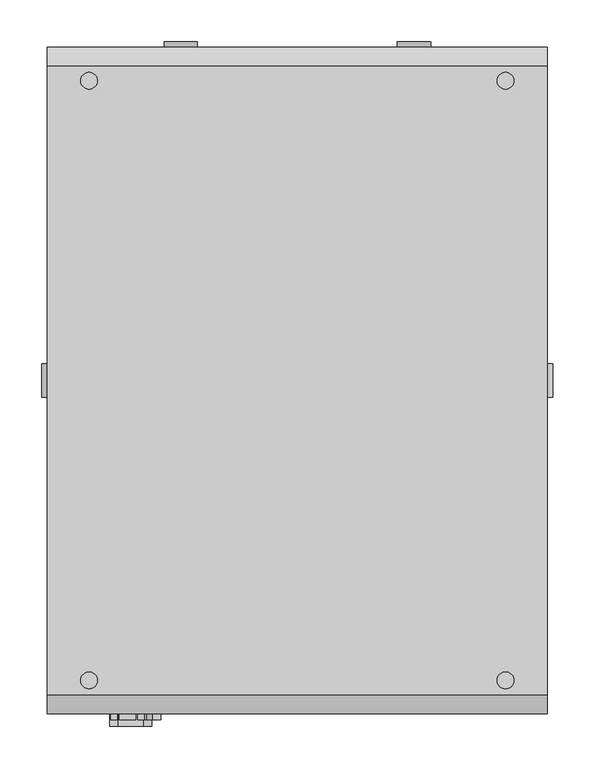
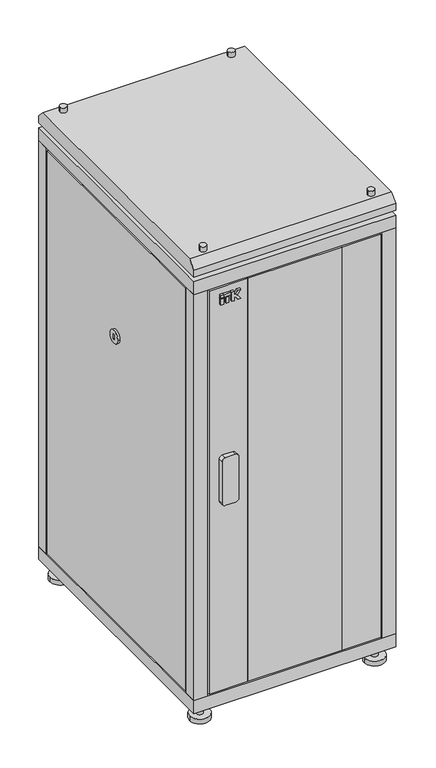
"""IFC4 building model written with IfcOpenShell, lengths in millimetres: proxy geometry, Шкафы ITK серия N_05 : LN05-28U68-G."""

from ifc_helpers import new_model, si_unit, point, frame, frame_2d, origin, origin_with_axes, place, context, project, spatial, polyline, circle_curve, trimmed, segment, composite_curve, outline, extrude, faceted_brep, source, transform, mapped, element, save
from ifc_brep_helpers import plane_surface, cylinder_surface, advanced_brep


def electrical_fixtures_75ca786f(model_context):
    return source(origin(), model_context, "Body", "SolidModel", [
        extrude(outline(polyline([(-215.9746193, -407.0), (-224.197592, -407.0), (-224.197592, -400.0), (-215.9746193, -400.0), (-215.9746193, -407.0)])), frame((0.0, 0.0, 1312.0), z_axis=(0.0, 0.0, 1.0), x_axis=(1.0, 0.0, 0.0)), (0.0, 0.0, 1.0), 18.8087618),
        extrude(outline(polyline([(-199.9605777, -407.0), (-207.7053315, -407.0), (-207.7053315, -400.0), (-199.9605777, -400.0), (-199.9605777, -407.0)])), frame((0.0, 0.0, 1312.0), z_axis=(0.0, 0.0, 1.0), x_axis=(1.0, 0.0, 0.0)), (0.0, 0.0, 1.0), 18.8087618),
        extrude(outline(polyline([(-215.9746193, -407.0), (-224.197592, -407.0), (-224.197592, -400.0), (-215.9746193, -400.0), (-215.9746193, -407.0)])), frame((0.0, 0.0, 1333.4305892), z_axis=(0.0, 0.0, 1.0), x_axis=(1.0, 0.0, 0.0)), (0.0, 0.0, 1.0), 7.9794747),
        extrude(outline(polyline([(1312.0, -191.5184175), (1312.0, -183.7669278), (1323.0271455, -183.7669278), (1323.0271455, -180.8031229), (1312.0, -173.6420108), (1312.0, -164.197592), (1326.7278745, -174.8980192), (1341.410064, -164.197592), (1341.410064, -173.6420108), (1330.3829184, -180.8031229), (1330.3829184, -183.7669278), (1341.410064, -183.7669278), (1341.410064, -191.5184175), (1312.0, -191.5184175)])), frame((0.0, -407.0, 0.0), z_axis=(0.0, 1.0, 0.0), x_axis=(0.0, 0.0, 1.0)), (0.0, 0.0, 1.0), 7.0),
        extrude(outline(polyline([(-194.0851324, -407.0), (-213.5807768, -407.0), (-213.5807768, -400.0), (-194.0851324, -400.0), (-194.0851324, -407.0)])), frame((0.0, 0.0, 1333.4305892), z_axis=(0.0, 0.0, 1.0), x_axis=(1.0, 0.0, 0.0)), (0.0, 0.0, 1.0), 7.9794747),
        extrude(outline(composite_curve([segment(polyline([(833.5, -185.0), (833.5, -215.0)]), True, "CONTINUOUS"), segment(trimmed(circle_curve(frame_2d((823.5, -215.0)), 10.0), [point((833.5, -215.0))], [point((823.5, -225.0))], False, "CARTESIAN"), True, "CONTINUOUS"), segment(polyline([(823.5, -225.0), (693.5, -225.0)]), True, "CONTINUOUS"), segment(trimmed(circle_curve(frame_2d((693.5, -215.0)), 10.0), [point((693.5, -225.0))], [point((683.5, -215.0))], False, "CARTESIAN"), True, "CONTINUOUS"), segment(polyline([(683.5, -215.0), (683.5, -185.0)]), True, "CONTINUOUS"), segment(trimmed(circle_curve(frame_2d((693.5, -185.0)), 10.0), [point((683.5, -185.0))], [point((693.5, -175.0))], False, "CARTESIAN"), True, "CONTINUOUS"), segment(polyline([(693.5, -175.0), (823.5, -175.0)]), True, "CONTINUOUS"), segment(trimmed(circle_curve(frame_2d((823.5, -185.0)), 10.0), [point((823.5, -175.0))], [point((833.5, -185.0))], False, "CARTESIAN"), True, "CONTINUOUS")], self_intersect=False)), frame((0.0, -415.0, 0.0), z_axis=(0.0, 1.0, 0.0), x_axis=(0.0, 0.0, 1.0)), (0.0, 0.0, 1.0), 15.0),
        extrude(outline(polyline([(140.0, -380.0), (140.0, -400.0), (-140.0, -400.0), (-140.0, -380.0), (140.0, -380.0)])), frame((0.0, 0.0, 95.0), z_axis=(0.0, 0.0, 1.0), x_axis=(1.0, 0.0, 0.0)), (0.0, 0.0, 1.0), 1267.0),
        extrude(outline(polyline([(255.0, -380.0), (255.0, -400.0), (140.0, -400.0), (140.0, -380.0), (235.0, -380.0), (235.0, -365.0), (245.0, -365.0), (245.0, -380.0), (255.0, -380.0)])), frame((0.0, 0.0, 95.0), z_axis=(0.0, 0.0, 1.0), x_axis=(1.0, 0.0, 0.0)), (0.0, 0.0, 1.0), 1267.0),
        extrude(outline(polyline([(-140.0, -400.0), (-255.0, -400.0), (-255.0, -380.0), (-245.0, -380.0), (-245.0, -365.0), (-235.0, -365.0), (-235.0, -380.0), (-140.0, -380.0), (-140.0, -400.0)])), frame((0.0, 0.0, 95.0), z_axis=(0.0, 0.0, 1.0), x_axis=(1.0, 0.0, 0.0)), (0.0, 0.0, 1.0), 1267.0),
        extrude(outline(composite_curve([segment(trimmed(circle_curve(frame_2d((-260.0, 360.0)), 10.0), [point((-250.0, 360.0))], [point((-270.0, 360.0))], False, "CARTESIAN"), True, "CONTINUOUS"), segment(trimmed(circle_curve(frame_2d((-260.0, 360.0)), 10.0), [point((-270.0, 360.0))], [point((-250.0, 360.0))], False, "CARTESIAN"), True, "CONTINUOUS")], self_intersect=False)), frame((0.0, 0.0, 15.0), z_axis=(0.0, 0.0, 1.0), x_axis=(1.0, 0.0, 0.0)), (0.0, 0.0, 1.0), 35.0),
        extrude(outline(composite_curve([segment(trimmed(circle_curve(frame_2d((260.0, 360.0)), 10.0), [point((270.0, 360.0))], [point((250.0, 360.0))], False, "CARTESIAN"), True, "CONTINUOUS"), segment(trimmed(circle_curve(frame_2d((260.0, 360.0)), 10.0), [point((250.0, 360.0))], [point((270.0, 360.0))], False, "CARTESIAN"), True, "CONTINUOUS")], self_intersect=False)), frame((0.0, 0.0, 15.0), z_axis=(0.0, 0.0, 1.0), x_axis=(1.0, 0.0, 0.0)), (0.0, 0.0, 1.0), 35.0),
        extrude(outline(composite_curve([segment(trimmed(circle_curve(frame_2d((-260.0, -360.0)), 10.0), [point((-250.0, -360.0))], [point((-270.0, -360.0))], False, "CARTESIAN"), True, "CONTINUOUS"), segment(trimmed(circle_curve(frame_2d((-260.0, -360.0)), 10.0), [point((-270.0, -360.0))], [point((-250.0, -360.0))], False, "CARTESIAN"), True, "CONTINUOUS")], self_intersect=False)), frame((0.0, 0.0, 15.0), z_axis=(0.0, 0.0, 1.0), x_axis=(1.0, 0.0, 0.0)), (0.0, 0.0, 1.0), 35.0),
        extrude(outline(composite_curve([segment(trimmed(circle_curve(frame_2d((260.0, -360.0)), 10.0), [point((270.0, -360.0))], [point((250.0, -360.0))], False, "CARTESIAN"), True, "CONTINUOUS"), segment(trimmed(circle_curve(frame_2d((260.0, -360.0)), 10.0), [point((250.0, -360.0))], [point((270.0, -360.0))], False, "CARTESIAN"), True, "CONTINUOUS")], self_intersect=False)), frame((0.0, 0.0, 15.0), z_axis=(0.0, 0.0, 1.0), x_axis=(1.0, 0.0, 0.0)), (0.0, 0.0, 1.0), 35.0),
        extrude(outline(composite_curve([segment(trimmed(circle_curve(frame_2d((-260.0, 360.0)), 30.0), [point((-230.0, 360.0))], [point((-290.0, 360.0))], False, "CARTESIAN"), True, "CONTINUOUS"), segment(trimmed(circle_curve(frame_2d((-260.0, 360.0)), 30.0), [point((-290.0, 360.0))], [point((-230.0, 360.0))], False, "CARTESIAN"), True, "CONTINUOUS")], self_intersect=False)), origin_with_axes(), (0.0, 0.0, 1.0), 15.0),
        extrude(outline(composite_curve([segment(trimmed(circle_curve(frame_2d((260.0, 360.0)), 30.0), [point((290.0, 360.0))], [point((230.0, 360.0))], False, "CARTESIAN"), True, "CONTINUOUS"), segment(trimmed(circle_curve(frame_2d((260.0, 360.0)), 30.0), [point((230.0, 360.0))], [point((290.0, 360.0))], False, "CARTESIAN"), True, "CONTINUOUS")], self_intersect=False)), origin_with_axes(), (0.0, 0.0, 1.0), 15.0),
        extrude(outline(composite_curve([segment(trimmed(circle_curve(frame_2d((-260.0, -360.0)), 30.0), [point((-230.0, -360.0))], [point((-290.0, -360.0))], False, "CARTESIAN"), True, "CONTINUOUS"), segment(trimmed(circle_curve(frame_2d((-260.0, -360.0)), 30.0), [point((-290.0, -360.0))], [point((-230.0, -360.0))], False, "CARTESIAN"), True, "CONTINUOUS")], self_intersect=False)), origin_with_axes(), (0.0, 0.0, 1.0), 15.0),
        extrude(outline(composite_curve([segment(trimmed(circle_curve(frame_2d((260.0, -360.0)), 30.0), [point((290.0, -360.0))], [point((230.0, -360.0))], False, "CARTESIAN"), True, "CONTINUOUS"), segment(trimmed(circle_curve(frame_2d((260.0, -360.0)), 30.0), [point((230.0, -360.0))], [point((290.0, -360.0))], False, "CARTESIAN"), True, "CONTINUOUS")], self_intersect=False)), origin_with_axes(), (0.0, 0.0, 1.0), 15.0),
        advanced_brep(
        [(260.0, 360.0, 1482.0), (240.0, 360.0, 1482.0), (260.0, -360.0, 1482.0), (240.0, -360.0, 1482.0), (-240.0, 360.0, 1482.0), (-260.0, 360.0, 1482.0), (-240.0, -360.0, 1482.0), (-260.0, -360.0, 1482.0), (260.0, 360.0, 1407.0), (240.0, 360.0, 1407.0), (260.0, -360.0, 1407.0), (240.0, -360.0, 1407.0), (-240.0, 360.0, 1407.0), (-260.0, 360.0, 1407.0), (-240.0, -360.0, 1407.0), (-260.0, -360.0, 1407.0), (260.0, 360.0, 1467.0), (240.0, 360.0, 1467.0), (240.0, 360.0, 1422.0), (260.0, 360.0, 1422.0), (260.0, -360.0, 1467.0), (240.0, -360.0, 1467.0), (240.0, -360.0, 1422.0), (260.0, -360.0, 1422.0), (-240.0, 360.0, 1467.0), (-260.0, 360.0, 1467.0), (-260.0, 360.0, 1422.0), (-240.0, 360.0, 1422.0), (-240.0, -360.0, 1467.0), (-260.0, -360.0, 1467.0), (-260.0, -360.0, 1422.0), (-240.0, -360.0, 1422.0), (300.0, 377.5, 1467.0), (300.0, -377.5, 1467.0), (300.0, -400.0, 1444.5), (300.0, -400.0, 1422.0), (300.0, 400.0, 1422.0), (300.0, 400.0, 1444.5), (-300.0, 377.5, 1467.0), (-300.0, 400.0, 1444.5), (-300.0, 400.0, 1422.0), (-300.0, -400.0, 1422.0), (-300.0, -400.0, 1444.5), (-300.0, -377.5, 1467.0)],
        [
            (0, 1, circle_curve(frame((250.0, 360.0, 1482.0), z_axis=(0.0, 0.0, 1.0), x_axis=(-1.0, 0.0, 0.0)), 10.0)),
            (1, 0, circle_curve(frame((250.0, 360.0, 1482.0), z_axis=(0.0, 0.0, 1.0), x_axis=(-1.0, 0.0, 0.0)), 10.0)),
            (2, 3, circle_curve(frame((250.0, -360.0, 1482.0), z_axis=(0.0, 0.0, 1.0), x_axis=(-1.0, 0.0, 0.0)), 10.0)),
            (3, 2, circle_curve(frame((250.0, -360.0, 1482.0), z_axis=(0.0, 0.0, 1.0), x_axis=(-1.0, 0.0, 0.0)), 10.0)),
            (4, 5, circle_curve(frame((-250.0, 360.0, 1482.0), z_axis=(0.0, 0.0, 1.0), x_axis=(-1.0, 0.0, 0.0)), 10.0)),
            (5, 4, circle_curve(frame((-250.0, 360.0, 1482.0), z_axis=(0.0, 0.0, 1.0), x_axis=(-1.0, 0.0, 0.0)), 10.0)),
            (6, 7, circle_curve(frame((-250.0, -360.0, 1482.0), z_axis=(0.0, 0.0, 1.0), x_axis=(-1.0, 0.0, 0.0)), 10.0)),
            (7, 6, circle_curve(frame((-250.0, -360.0, 1482.0), z_axis=(0.0, 0.0, 1.0), x_axis=(-1.0, 0.0, 0.0)), 10.0)),
            (8, 9, circle_curve(frame((250.0, 360.0, 1407.0), z_axis=(0.0, 0.0, -1.0), x_axis=(-1.0, 0.0, 0.0)), 10.0)),
            (9, 8, circle_curve(frame((250.0, 360.0, 1407.0), z_axis=(0.0, 0.0, -1.0), x_axis=(-1.0, 0.0, 0.0)), 10.0)),
            (10, 11, circle_curve(frame((250.0, -360.0, 1407.0), z_axis=(0.0, 0.0, -1.0), x_axis=(-1.0, 0.0, 0.0)), 10.0)),
            (11, 10, circle_curve(frame((250.0, -360.0, 1407.0), z_axis=(0.0, 0.0, -1.0), x_axis=(-1.0, 0.0, 0.0)), 10.0)),
            (12, 13, circle_curve(frame((-250.0, 360.0, 1407.0), z_axis=(0.0, 0.0, -1.0), x_axis=(-1.0, 0.0, 0.0)), 10.0)),
            (13, 12, circle_curve(frame((-250.0, 360.0, 1407.0), z_axis=(0.0, 0.0, -1.0), x_axis=(-1.0, 0.0, 0.0)), 10.0)),
            (14, 15, circle_curve(frame((-250.0, -360.0, 1407.0), z_axis=(0.0, 0.0, -1.0), x_axis=(-1.0, 0.0, 0.0)), 10.0)),
            (15, 14, circle_curve(frame((-250.0, -360.0, 1407.0), z_axis=(0.0, 0.0, -1.0), x_axis=(-1.0, 0.0, 0.0)), 10.0)),
            (0, 16),
            (16, 17, circle_curve(frame((250.0, 360.0, 1467.0), z_axis=(0.0, 0.0, 1.0), x_axis=(-1.0, 0.0, 0.0)), 10.0)),
            (17, 1),
            (9, 18),
            (18, 19, circle_curve(frame((250.0, 360.0, 1422.0), z_axis=(0.0, 0.0, -1.0), x_axis=(-1.0, 0.0, 0.0)), 10.0)),
            (19, 8),
            (17, 16, circle_curve(frame((250.0, 360.0, 1467.0), z_axis=(0.0, 0.0, 1.0), x_axis=(-1.0, 0.0, 0.0)), 10.0)),
            (19, 18, circle_curve(frame((250.0, 360.0, 1422.0), z_axis=(0.0, 0.0, -1.0), x_axis=(-1.0, 0.0, 0.0)), 10.0)),
            (2, 20),
            (20, 21, circle_curve(frame((250.0, -360.0, 1467.0), z_axis=(0.0, 0.0, 1.0), x_axis=(-1.0, 0.0, 0.0)), 10.0)),
            (21, 3),
            (11, 22),
            (22, 23, circle_curve(frame((250.0, -360.0, 1422.0), z_axis=(0.0, 0.0, -1.0), x_axis=(-1.0, 0.0, 0.0)), 10.0)),
            (23, 10),
            (21, 20, circle_curve(frame((250.0, -360.0, 1467.0), z_axis=(0.0, 0.0, 1.0), x_axis=(-1.0, 0.0, 0.0)), 10.0)),
            (23, 22, circle_curve(frame((250.0, -360.0, 1422.0), z_axis=(0.0, 0.0, -1.0), x_axis=(-1.0, 0.0, 0.0)), 10.0)),
            (4, 24),
            (24, 25, circle_curve(frame((-250.0, 360.0, 1467.0), z_axis=(0.0, 0.0, 1.0), x_axis=(-1.0, 0.0, 0.0)), 10.0)),
            (25, 5),
            (13, 26),
            (26, 27, circle_curve(frame((-250.0, 360.0, 1422.0), z_axis=(0.0, 0.0, -1.0), x_axis=(-1.0, 0.0, 0.0)), 10.0)),
            (27, 12),
            (25, 24, circle_curve(frame((-250.0, 360.0, 1467.0), z_axis=(0.0, 0.0, 1.0), x_axis=(-1.0, 0.0, 0.0)), 10.0)),
            (27, 26, circle_curve(frame((-250.0, 360.0, 1422.0), z_axis=(0.0, 0.0, -1.0), x_axis=(-1.0, 0.0, 0.0)), 10.0)),
            (6, 28),
            (28, 29, circle_curve(frame((-250.0, -360.0, 1467.0), z_axis=(0.0, 0.0, 1.0), x_axis=(-1.0, 0.0, 0.0)), 10.0)),
            (29, 7),
            (15, 30),
            (30, 31, circle_curve(frame((-250.0, -360.0, 1422.0), z_axis=(0.0, 0.0, -1.0), x_axis=(-1.0, 0.0, 0.0)), 10.0)),
            (31, 14),
            (29, 28, circle_curve(frame((-250.0, -360.0, 1467.0), z_axis=(0.0, 0.0, 1.0), x_axis=(-1.0, 0.0, 0.0)), 10.0)),
            (31, 30, circle_curve(frame((-250.0, -360.0, 1422.0), z_axis=(0.0, 0.0, -1.0), x_axis=(-1.0, 0.0, 0.0)), 10.0)),
            (32, 33),
            (33, 34),
            (34, 35),
            (35, 36),
            (36, 37),
            (37, 32),
            (38, 39),
            (39, 40),
            (40, 41),
            (41, 42),
            (42, 43),
            (43, 38),
            (32, 38),
            (43, 33),
            (42, 34),
            (41, 35),
            (40, 36),
            (39, 37),
        ],
        [
            plane_surface(frame((240.0, 360.0, 1482.0), z_axis=(0.0, 0.0, 1.0), x_axis=(0.0, -1.0, 0.0))),
            plane_surface(frame((240.0, 360.0, 1407.0), z_axis=(0.0, 0.0, -1.0), x_axis=(0.0, 1.0, 0.0))),
            cylinder_surface(frame((250.0, 360.0, 1407.0), z_axis=(0.0, 0.0, 1.0), x_axis=(-1.0, 0.0, 0.0)), 10.0),
            cylinder_surface(frame((250.0, -360.0, 1710.0), z_axis=(0.0, 0.0, 1.0), x_axis=(-1.0, 0.0, 0.0)), 10.0),
            cylinder_surface(frame((-250.0, 360.0, 1710.0), z_axis=(0.0, 0.0, 1.0), x_axis=(-1.0, 0.0, 0.0)), 10.0),
            cylinder_surface(frame((-250.0, -360.0, 1710.0), z_axis=(0.0, 0.0, 1.0), x_axis=(-1.0, 0.0, 0.0)), 10.0),
            plane_surface(frame((300.0, -377.5, 1467.0), z_axis=(1.0, 0.0, 0.0), x_axis=(0.0, -1.0, 0.0))),
            plane_surface(frame((-300.0, -377.5, 1467.0), z_axis=(-1.0, 0.0, 0.0), x_axis=(0.0, 1.0, 0.0))),
            plane_surface(frame((300.0, 377.5, 1467.0), z_axis=(0.0, 0.0, 1.0), x_axis=(-1.0, 0.0, 0.0))),
            plane_surface(frame((300.0, -377.5, 1467.0), z_axis=(0.0, -0.7071067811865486, 0.7071067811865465), x_axis=(-1.0, 0.0, 0.0))),
            plane_surface(frame((300.0, -400.0, 1444.5), z_axis=(0.0, -1.0, 0.0), x_axis=(-1.0, 0.0, 0.0))),
            plane_surface(frame((300.0, -400.0, 1422.0), z_axis=(0.0, 0.0, -1.0), x_axis=(-1.0, 0.0, 0.0))),
            plane_surface(frame((300.0, 400.0, 1422.0), z_axis=(0.0, 1.0, 0.0), x_axis=(-1.0, 0.0, 0.0))),
            plane_surface(frame((300.0, 400.0, 1444.5), z_axis=(0.0, 0.7071067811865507, 0.7071067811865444), x_axis=(-1.0, 0.0, 0.0))),
        ],
        [
            (0, [[1, 2]]),
            (0, [[3, 4]]),
            (0, [[5, 6]]),
            (0, [[7, 8]]),
            (1, [[9, 10]]),
            (1, [[11, 12]]),
            (1, [[13, 14]]),
            (1, [[15, 16]]),
            (2, [[-1, 17, 18, 19]]),
            (2, [[-10, 20, 21, 22]]),
            (2, [[-2, -19, 23, -17]]),
            (2, [[-9, -22, 24, -20]]),
            (3, [[-3, 25, 26, 27]]),
            (3, [[-12, 28, 29, 30]]),
            (3, [[-4, -27, 31, -25]]),
            (3, [[-11, -30, 32, -28]]),
            (4, [[-5, 33, 34, 35]]),
            (4, [[-14, 36, 37, 38]]),
            (4, [[-6, -35, 39, -33]]),
            (4, [[-13, -38, 40, -36]]),
            (5, [[-7, 41, 42, 43]]),
            (5, [[-16, 44, 45, 46]]),
            (5, [[-8, -43, 47, -41]]),
            (5, [[-15, -46, 48, -44]]),
            (6, [[49, 50, 51, 52, 53, 54]]),
            (7, [[55, 56, 57, 58, 59, 60]]),
            (8, [[-49, 61, -60, 62], [-18, -23], [-26, -31], [-34, -39], [-42, -47]]),
            (9, [[-50, -62, -59, 63]]),
            (10, [[-51, -63, -58, 64]]),
            (11, [[-52, -64, -57, 65], [-21, -24], [-29, -32], [-37, -40], [-45, -48]]),
            (12, [[-53, -65, -56, 66]]),
            (13, [[-54, -66, -55, -61]]),
        ],
    ),
        extrude(outline(polyline([(260.0, 360.0), (260.0, 345.0), (290.0, 345.0), (290.0, -345.0), (260.0, -345.0), (260.0, -360.0), (245.0, -360.0), (245.0, -380.0), (-245.0, -380.0), (-245.0, -360.0), (-260.0, -360.0), (-260.0, -345.0), (-290.0, -345.0), (-290.0, 345.0), (-260.0, 345.0), (-260.0, 360.0), (-245.0, 360.0), (-245.0, 390.0), (245.0, 390.0), (245.0, 360.0), (260.0, 360.0)])), frame((0.0, 0.0, 90.0), z_axis=(0.0, 0.0, 1.0), x_axis=(1.0, 0.0, 0.0)), (0.0, 0.0, 1.0), 5.0),
        extrude(outline(polyline([(260.0, 360.0), (260.0, 345.0), (290.0, 345.0), (290.0, -345.0), (260.0, -345.0), (260.0, -360.0), (245.0, -360.0), (245.0, -380.0), (-245.0, -380.0), (-245.0, -360.0), (-260.0, -360.0), (-260.0, -345.0), (-290.0, -345.0), (-290.0, 345.0), (-260.0, 345.0), (-260.0, 360.0), (-245.0, 360.0), (-245.0, 390.0), (245.0, 390.0), (245.0, 360.0), (260.0, 360.0)])), frame((0.0, 0.0, 1362.0), z_axis=(0.0, 0.0, 1.0), x_axis=(1.0, 0.0, 0.0)), (0.0, 0.0, 1.0), 5.0),
        extrude(outline(polyline([(300.0, -400.0), (-300.0, -400.0), (-300.0, 400.0), (300.0, 400.0), (300.0, -400.0)])), frame((0.0, 0.0, 1367.0), z_axis=(0.0, 0.0, 1.0), x_axis=(1.0, 0.0, 0.0)), (0.0, 0.0, 1.0), 40.0),
        extrude(outline(polyline([(300.0, -400.0), (-300.0, -400.0), (-300.0, 400.0), (300.0, 400.0), (300.0, -400.0)])), frame((0.0, 0.0, 50.0), z_axis=(0.0, 0.0, 1.0), x_axis=(1.0, 0.0, 0.0)), (0.0, 0.0, 1.0), 40.0),
        extrude(outline(composite_curve([segment(trimmed(circle_curve(frame_2d((728.5, 140.0)), 20.0), [point((728.5, 160.0))], [point((728.5, 120.0))], False, "CARTESIAN"), True, "CONTINUOUS"), segment(trimmed(circle_curve(frame_2d((728.5, 140.0)), 20.0), [point((728.5, 120.0))], [point((728.5, 160.0))], False, "CARTESIAN"), True, "CONTINUOUS")], self_intersect=False), holes=[polyline([(720.2814397, 137.0), (736.7185603, 137.0), (736.7185603, 143.0), (720.2814397, 143.0), (720.2814397, 137.0)])]), frame((0.0, 400.0, 0.0), z_axis=(0.0, 1.0, 0.0), x_axis=(0.0, 0.0, 1.0)), (0.0, 0.0, 1.0), 7.0),
        extrude(outline(composite_curve([segment(trimmed(circle_curve(frame_2d((728.5, -140.0)), 20.0), [point((728.5, -120.0))], [point((728.5, -160.0))], False, "CARTESIAN"), True, "CONTINUOUS"), segment(trimmed(circle_curve(frame_2d((728.5, -140.0)), 20.0), [point((728.5, -160.0))], [point((728.5, -120.0))], False, "CARTESIAN"), True, "CONTINUOUS")], self_intersect=False), holes=[polyline([(720.2814397, -143.0), (736.7185603, -143.0), (736.7185603, -137.0), (720.2814397, -137.0), (720.2814397, -143.0)])]), frame((0.0, 400.0, 0.0), z_axis=(0.0, 1.0, 0.0), x_axis=(0.0, 0.0, 1.0)), (0.0, 0.0, 1.0), 7.0),
        faceted_brep([(255.0, 400.0, 1362.0), (-255.0, 400.0, 1362.0), (-255.0, 370.0, 1362.0), (-245.0, 370.0, 1362.0), (-245.0, 390.0, 1362.0), (245.0, 390.0, 1362.0), (245.0, 370.0, 1362.0), (255.0, 370.0, 1362.0), (255.0, 400.0, 1189.5265979), (-255.0, 400.0, 1189.5265979), (175.0, 400.0, 1237.0), (175.0, 400.0, 1317.0), (-175.0, 400.0, 1317.0), (-175.0, 400.0, 1237.0), (-255.0, 370.0, 1189.5265979), (-245.0, 370.0, 1189.5265979), (-245.0, 390.0, 1189.5265979), (245.0, 390.0, 1189.5265979), (175.0, 390.0, 1317.0), (175.0, 390.0, 1237.0), (-175.0, 390.0, 1237.0), (-175.0, 390.0, 1317.0), (245.0, 370.0, 1189.5265979), (255.0, 370.0, 1189.5265979)], [[[0, 1, 2, 3, 4, 5, 6, 7]], [[1, 0, 8, 9], [10, 11, 12, 13]], [[2, 1, 9, 14]], [[3, 2, 14, 15]], [[4, 3, 15, 16]], [[5, 4, 16, 17], [18, 19, 20, 21]], [[6, 5, 17, 22]], [[7, 6, 22, 23]], [[0, 7, 23, 8]], [[9, 8, 23, 22, 17, 16, 15, 14]], [[10, 19, 18, 11]], [[11, 18, 21, 12]], [[12, 21, 20, 13]], [[19, 10, 13, 20]]]),
        faceted_brep([(255.0, 400.0, 95.0), (255.0, 370.0, 95.0), (245.0, 370.0, 95.0), (245.0, 390.0, 95.0), (-245.0, 390.0, 95.0), (-245.0, 370.0, 95.0), (-255.0, 370.0, 95.0), (-255.0, 400.0, 95.0), (-255.0, 400.0, 267.4734021), (255.0, 400.0, 267.4734021), (175.0, 400.0, 220.0), (-175.0, 400.0, 220.0), (-175.0, 400.0, 140.0), (175.0, 400.0, 140.0), (-255.0, 370.0, 267.4734021), (-245.0, 370.0, 267.4734021), (-245.0, 390.0, 267.4734021), (245.0, 390.0, 267.4734021), (-175.0, 390.0, 220.0), (175.0, 390.0, 220.0), (175.0, 390.0, 140.0), (-175.0, 390.0, 140.0), (245.0, 370.0, 267.4734021), (255.0, 370.0, 267.4734021)], [[[0, 1, 2, 3, 4, 5, 6, 7]], [[0, 7, 8, 9], [10, 11, 12, 13]], [[7, 6, 14, 8]], [[6, 5, 15, 14]], [[5, 4, 16, 15]], [[4, 3, 17, 16], [18, 19, 20, 21]], [[3, 2, 22, 17]], [[2, 1, 23, 22]], [[1, 0, 9, 23]], [[9, 8, 14, 15, 16, 17, 22, 23]], [[10, 19, 18, 11]], [[11, 18, 21, 12]], [[12, 21, 20, 13]], [[19, 10, 13, 20]]]),
        faceted_brep([(255.0, 400.0, 1184.4734021), (255.0, 400.0, 272.5265979), (-255.0, 400.0, 272.5265979), (-255.0, 400.0, 1184.4734021), (-255.0, 370.0, 272.5265979), (-255.0, 370.0, 1184.4734021), (-245.0, 370.0, 272.5265979), (-245.0, 370.0, 1184.4734021), (-245.0, 390.0, 272.5265979), (-245.0, 390.0, 1184.4734021), (245.0, 390.0, 272.5265979), (245.0, 390.0, 1184.4734021), (245.0, 370.0, 272.5265979), (245.0, 370.0, 1184.4734021), (255.0, 370.0, 272.5265979), (255.0, 370.0, 1184.4734021)], [[[0, 1, 2, 3]], [[3, 2, 4, 5]], [[5, 4, 6, 7]], [[7, 6, 8, 9]], [[9, 8, 10, 11]], [[11, 10, 12, 13]], [[13, 12, 14, 15]], [[1, 0, 15, 14]], [[2, 1, 14, 12, 10, 8, 6, 4]], [[0, 3, 5, 7, 9, 11, 13, 15]]]),
        faceted_brep([(-170.0, 400.0, 215.0), (170.0, 400.0, 215.0), (170.0, 400.0, 145.0), (-170.0, 400.0, 145.0), (170.0, 390.0, 215.0), (-170.0, 390.0, 215.0), (-170.0, 390.0, 145.0), (170.0, 390.0, 145.0)], [[[0, 1, 2, 3]], [[4, 5, 6, 7]], [[0, 5, 4, 1]], [[1, 4, 7, 2]], [[2, 7, 6, 3]], [[5, 0, 3, 6]]]),
        faceted_brep([(-170.0, 400.0, 1242.0), (-170.0, 400.0, 1312.0), (170.0, 400.0, 1312.0), (170.0, 400.0, 1242.0), (-170.0, 390.0, 1312.0), (-170.0, 390.0, 1242.0), (170.0, 390.0, 1242.0), (170.0, 390.0, 1312.0)], [[[0, 1, 2, 3]], [[4, 5, 6, 7]], [[0, 5, 4, 1]], [[1, 4, 7, 2]], [[2, 7, 6, 3]], [[5, 0, 3, 6]]]),
        extrude(outline(composite_curve([segment(trimmed(circle_curve(frame_2d((0.0, 994.6666667)), 20.0), [point((-20.0, 994.6666667))], [point((20.0, 994.6666667))], False, "CARTESIAN"), True, "CONTINUOUS"), segment(trimmed(circle_curve(frame_2d((0.0, 994.6666667)), 20.0), [point((20.0, 994.6666667))], [point((-20.0, 994.6666667))], False, "CARTESIAN"), True, "CONTINUOUS")], self_intersect=False), holes=[polyline([(3.0, 986.4481063), (3.0, 1002.885227), (-3.0, 1002.885227), (-3.0, 986.4481063), (3.0, 986.4481063)])]), frame((300.0, 0.0, 0.0), z_axis=(1.0, 0.0, 0.0), x_axis=(0.0, 1.0, 0.0)), (0.0, 0.0, 1.0), 7.0),
        extrude(outline(composite_curve([segment(trimmed(circle_curve(frame_2d((0.0, 994.6666667)), 20.0), [point((20.0, 994.6666667))], [point((-20.0, 994.6666667))], False, "CARTESIAN"), True, "CONTINUOUS"), segment(trimmed(circle_curve(frame_2d((0.0, 994.6666667)), 20.0), [point((-20.0, 994.6666667))], [point((20.0, 994.6666667))], False, "CARTESIAN"), True, "CONTINUOUS")], self_intersect=False), holes=[polyline([(-3.0, 986.4481063), (3.0, 986.4481063), (3.0, 1002.885227), (-3.0, 1002.885227), (-3.0, 986.4481063)])]), frame((-307.0, 0.0, 0.0), z_axis=(1.0, 0.0, 0.0), x_axis=(0.0, 1.0, 0.0)), (0.0, 0.0, 1.0), 7.0),
        extrude(outline(polyline([(-270.0, 355.0), (-270.0, 345.0), (-289.9803177, 345.0), (-289.9803177, -345.0), (-269.9803177, -345.0), (-269.9803177, -355.0), (-300.0, -355.0), (-300.0, 355.0), (-270.0, 355.0)])), frame((0.0, 0.0, 95.0), z_axis=(0.0, 0.0, 1.0), x_axis=(1.0, 0.0, 0.0)), (0.0, 0.0, 1.0), 1267.0),
        extrude(outline(polyline([(269.9803177, 355.0), (300.0, 355.0), (300.0, -355.0), (269.9803177, -355.0), (269.9803177, -345.0), (289.9803177, -345.0), (289.9803177, 345.0), (269.9803177, 345.0), (269.9803177, 355.0)])), frame((0.0, 0.0, 95.0), z_axis=(0.0, 0.0, 1.0), x_axis=(1.0, 0.0, 0.0)), (0.0, 0.0, 1.0), 1267.0),
        extrude(outline(polyline([(-270.0, -360.0), (-270.0, -345.0), (-260.0, -345.0), (-260.0, -360.0), (-245.0, -360.0), (-245.0, -380.0), (-260.0, -380.0), (-260.0, -400.0), (-300.0, -400.0), (-300.0, -360.0), (-270.0, -360.0)]), holes=[polyline([(-267.0, -363.0), (-297.0, -363.0), (-297.0, -397.0), (-263.0, -397.0), (-263.0, -377.0), (-248.0, -377.0), (-248.0, -363.0), (-263.0, -363.0), (-263.0, -348.0), (-267.0, -348.0), (-267.0, -363.0)])]), frame((0.0, 0.0, 90.0), z_axis=(0.0, 0.0, 1.0), x_axis=(1.0, 0.0, 0.0)), (0.0, 0.0, 1.0), 1277.0),
        extrude(outline(polyline([(270.0, -360.0), (300.0, -360.0), (300.0, -400.0), (260.0, -400.0), (260.0, -380.0), (245.0, -380.0), (245.0, -360.0), (260.0, -360.0), (260.0, -345.0), (270.0, -345.0), (270.0, -360.0)]), holes=[polyline([(297.0, -397.0), (297.0, -363.0), (267.0, -363.0), (267.0, -348.0), (263.0, -348.0), (263.0, -363.0), (248.0, -363.0), (248.0, -377.0), (263.0, -377.0), (263.0, -397.0), (297.0, -397.0)])]), frame((0.0, 0.0, 90.0), z_axis=(0.0, 0.0, 1.0), x_axis=(1.0, 0.0, 0.0)), (0.0, 0.0, 1.0), 1277.0),
        extrude(outline(polyline([(270.0, 360.0), (270.0, 345.0), (260.0, 345.0), (260.0, 360.0), (245.0, 360.0), (245.0, 370.0), (260.0, 370.0), (260.0, 400.0), (300.0, 400.0), (300.0, 360.0), (270.0, 360.0)]), holes=[polyline([(297.0, 363.0), (297.0, 397.0), (263.0, 397.0), (263.0, 367.0), (248.0, 367.0), (248.0, 363.0), (263.0, 363.0), (263.0, 348.0), (267.0, 348.0), (267.0, 363.0), (297.0, 363.0)])]), frame((0.0, 0.0, 90.0), z_axis=(0.0, 0.0, 1.0), x_axis=(1.0, 0.0, 0.0)), (0.0, 0.0, 1.0), 1277.0),
        extrude(outline(polyline([(-270.0, 360.0), (-300.0, 360.0), (-300.0, 400.0), (-260.0, 400.0), (-260.0, 370.0), (-245.0, 370.0), (-245.0, 360.0), (-260.0, 360.0), (-260.0, 345.0), (-270.0, 345.0), (-270.0, 360.0)]), holes=[polyline([(-297.0, 397.0), (-297.0, 363.0), (-267.0, 363.0), (-267.0, 348.0), (-263.0, 348.0), (-263.0, 363.0), (-248.0, 363.0), (-248.0, 367.0), (-263.0, 367.0), (-263.0, 397.0), (-297.0, 397.0)])]), frame((0.0, 0.0, 90.0), z_axis=(0.0, 0.0, 1.0), x_axis=(1.0, 0.0, 0.0)), (0.0, 0.0, 1.0), 1277.0),
    ])


if __name__ == "__main__":
    model = new_model("IFC4")
    model_context = context("Model", 3, world=origin())
    ifc_project = project(units=[si_unit("LENGTHUNIT", "METRE", prefix="MILLI")], contexts=[model_context])
    site = spatial("IfcSite", under=ifc_project)
    building = spatial("IfcBuilding", under=site)
    placement = place(None, origin())
    electrical_fixtures_shape = electrical_fixtures_75ca786f(model_context)
    element("IfcBuildingElementProxy", 1, Name="Шкафы ITK серия N_05 : LN05-28U68-G", ObjectType="Шкафы ITK серия N_05 : LN05-28U68-G", at=placement, inside=building, context=model_context, shape_type="MappedRepresentation", body=[
        mapped(electrical_fixtures_shape, transform((0.0, 0.0, 0.0), x_axis=(1.0, 0.0, 0.0), y_axis=(0.0, 1.0, 0.0), z_axis=(0.0, 0.0, 1.0))),
    ])
    save(model, "model.ifc")
